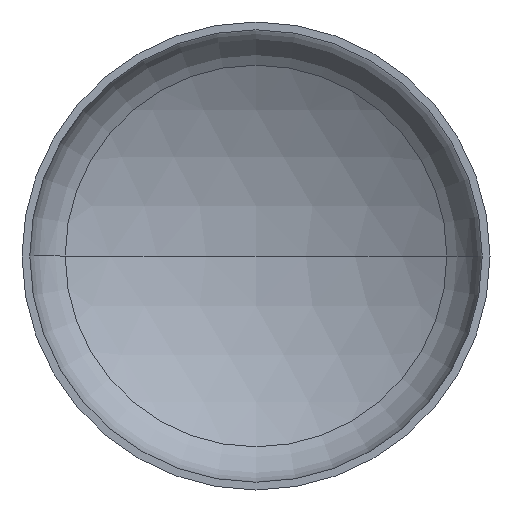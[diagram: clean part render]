
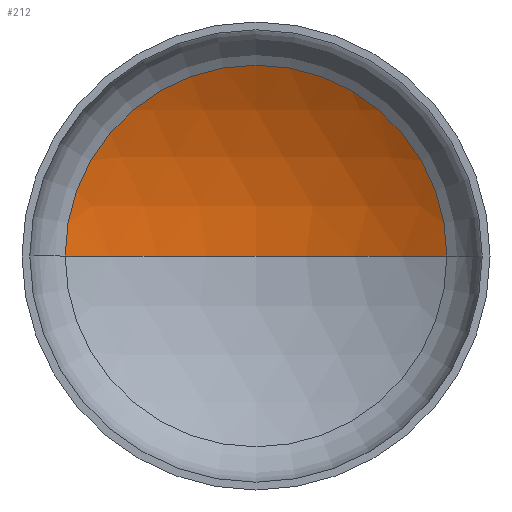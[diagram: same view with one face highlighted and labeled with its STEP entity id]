
A CAD part, front view. The second image highlights one B-rep face of the part: STEP entity #212.
In plain terms, the highlighted spherical face has radius 1920 mm.
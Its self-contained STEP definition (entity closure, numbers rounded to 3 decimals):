
#4 = ORIENTED_EDGE ( 'NONE', *, *, #363, .T. ) ;
#12 = AXIS2_PLACEMENT_3D ( 'NONE', #393, #248, #409 ) ;
#15 = EDGE_LOOP ( 'NONE', ( #41, #4, #120 ) ) ;
#16 = AXIS2_PLACEMENT_3D ( 'NONE', #145, #246, #365 ) ;
#23 = AXIS2_PLACEMENT_3D ( 'NONE', #102, #128, #138 ) ;
#41 = ORIENTED_EDGE ( 'NONE', *, *, #366, .F. ) ;
#42 = VERTEX_POINT ( 'NONE', #236 ) ;
#49 = CARTESIAN_POINT ( 'NONE',  ( 0., -1213.567, 0. ) ) ;
#82 = VERTEX_POINT ( 'NONE', #351 ) ;
#102 = CARTESIAN_POINT ( 'NONE',  ( 0., -1213.567, 0. ) ) ;
#111 = AXIS2_PLACEMENT_3D ( 'NONE', #49, #179, #132 ) ;
#118 = CIRCLE ( 'NONE', #23, 1920. ) ;
#120 = ORIENTED_EDGE ( 'NONE', *, *, #374, .T. ) ;
#128 = DIRECTION ( 'NONE',  ( 0., 0., -1. ) ) ;
#132 = DIRECTION ( 'NONE',  ( -1., 0., 0. ) ) ;
#138 = DIRECTION ( 'NONE',  ( -1., 0., 0. ) ) ;
#145 = CARTESIAN_POINT ( 'NONE',  ( 0., -1213.567, 0. ) ) ;
#179 = DIRECTION ( 'NONE',  ( 0., 0., -1. ) ) ;
#188 = CARTESIAN_POINT ( 'NONE',  ( -978.581, 438.335, 0. ) ) ;
#205 = CIRCLE ( 'NONE', #16, 1920. ) ;
#212 = ADVANCED_FACE ( 'NONE', ( #309 ), #371, .F. ) ;
#236 = CARTESIAN_POINT ( 'NONE',  ( 0., 706.433, 0. ) ) ;
#246 = DIRECTION ( 'NONE',  ( 0., 0., 1. ) ) ;
#248 = DIRECTION ( 'NONE',  ( 0., -1., 0. ) ) ;
#272 = VERTEX_POINT ( 'NONE', #188 ) ;
#309 = FACE_OUTER_BOUND ( 'NONE', #15, .T. ) ;
#329 = CIRCLE ( 'NONE', #12, 978.581 ) ;
#351 = CARTESIAN_POINT ( 'NONE',  ( 978.581, 438.335, 0. ) ) ;
#363 = EDGE_CURVE ( 'NONE', #42, #82, #118, .T. ) ;
#365 = DIRECTION ( 'NONE',  ( 1., 0., 0. ) ) ;
#366 = EDGE_CURVE ( 'NONE', #42, #272, #205, .T. ) ;
#371 = SPHERICAL_SURFACE ( 'NONE', #111, 1920. ) ;
#374 = EDGE_CURVE ( 'NONE', #82, #272, #329, .T. ) ;
#393 = CARTESIAN_POINT ( 'NONE',  ( 0., 438.335, 0. ) ) ;
#409 = DIRECTION ( 'NONE',  ( 1., 0., 0. ) ) ;
